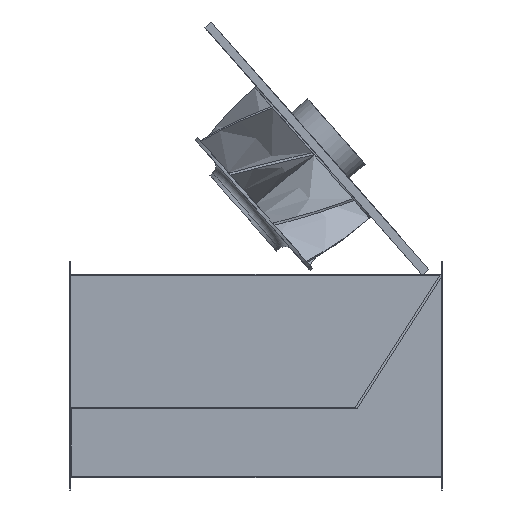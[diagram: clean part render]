
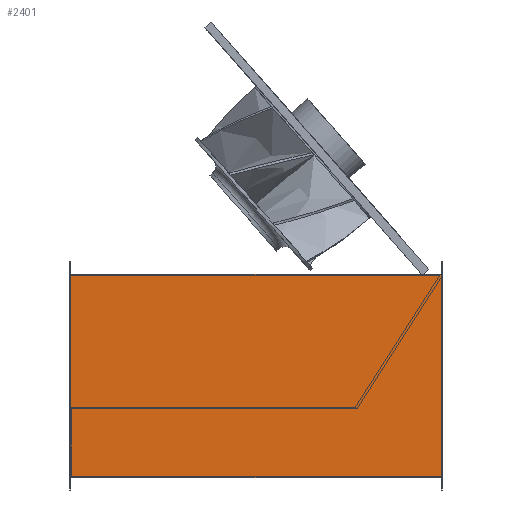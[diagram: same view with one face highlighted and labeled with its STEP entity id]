
A CAD part, left-side view. The second image highlights one B-rep face of the part: STEP entity #2401.
In plain terms, the highlighted planar face has unit normal (-1, 0, 0).
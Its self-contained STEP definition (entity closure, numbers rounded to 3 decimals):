
#352=LINE('',#4312,#555);
#370=LINE('',#4367,#573);
#371=LINE('',#4370,#574);
#372=LINE('',#4371,#575);
#555=VECTOR('',#3097,10.);
#573=VECTOR('',#3151,10.);
#574=VECTOR('',#3154,10.);
#575=VECTOR('',#3155,10.);
#665=PLANE('',#2596);
#857=FACE_OUTER_BOUND('',#1014,.T.);
#1014=EDGE_LOOP('',(#2196,#2197,#2198,#2199));
#1291=VERTEX_POINT('',#4309);
#1292=VERTEX_POINT('',#4311);
#1311=VERTEX_POINT('',#4365);
#1312=VERTEX_POINT('',#4369);
#1594=EDGE_CURVE('',#1292,#1291,#352,.T.);
#1620=EDGE_CURVE('',#1291,#1311,#370,.T.);
#1621=EDGE_CURVE('',#1312,#1311,#371,.T.);
#1622=EDGE_CURVE('',#1312,#1292,#372,.T.);
#2196=ORIENTED_EDGE('',*,*,#1620,.T.);
#2197=ORIENTED_EDGE('',*,*,#1621,.F.);
#2198=ORIENTED_EDGE('',*,*,#1622,.T.);
#2199=ORIENTED_EDGE('',*,*,#1594,.T.);
#2401=ADVANCED_FACE('',(#857),#665,.T.);
#2596=AXIS2_PLACEMENT_3D('',#4368,#3152,#3153);
#3097=DIRECTION('',(0.,-1.,0.));
#3151=DIRECTION('',(0.,0.,1.));
#3152=DIRECTION('center_axis',(-1.,0.,0.));
#3153=DIRECTION('ref_axis',(0.,0.,1.));
#3154=DIRECTION('',(0.,-1.,0.));
#3155=DIRECTION('',(0.,0.,-1.));
#4309=CARTESIAN_POINT('',(-300.,-319.,-175.));
#4311=CARTESIAN_POINT('',(-300.,319.,-175.));
#4312=CARTESIAN_POINT('',(-300.,0.,-175.));
#4365=CARTESIAN_POINT('',(-300.,-319.,175.));
#4367=CARTESIAN_POINT('',(-300.,-319.,-87.5));
#4368=CARTESIAN_POINT('Origin',(-300.,0.,-175.));
#4369=CARTESIAN_POINT('',(-300.,319.,175.));
#4370=CARTESIAN_POINT('',(-300.,0.,175.));
#4371=CARTESIAN_POINT('',(-300.,319.,-87.5));
